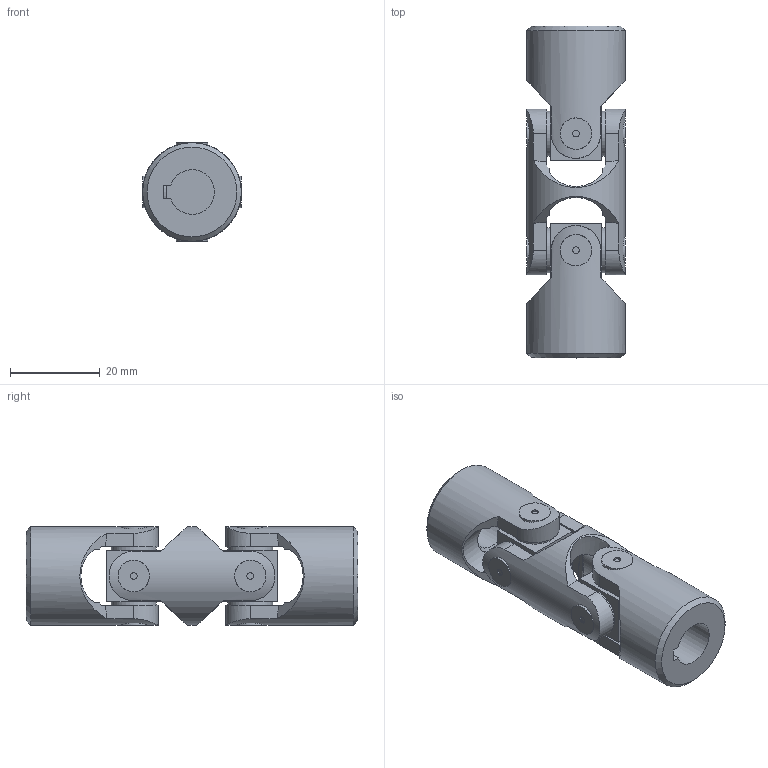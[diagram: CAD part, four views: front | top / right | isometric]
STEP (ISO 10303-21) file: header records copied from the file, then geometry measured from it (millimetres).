
FILE_DESCRIPTION(/* description */ (''),/* implementation_level */ '2;1');
FILE_NAME(/* name */ '\\SRV2016\Societa\Stefano\Disegni 3D\00Catalogo 3D\02Doppi GD-GBD\SG0D101C.stp',/* time_stamp */ '2021-11-22T17:03:33+01:00',/* author */ ('acquisti'),/* organization */ (''),/* preprocessor_version */ 'ST-DEVELOPER v15.6',/* originating_system */ 'Autodesk Inventor 2015',/* authorisation */ '');
FILE_SCHEMA (('AUTOMOTIVE_DESIGN { 1 0 10303 214 3 1 1 }'));
Length unit declared in the file: millimetre
Products named in the file (5): 03G MOD; 03G SFE; 03G MOC; 03G MOS; Ø22_03GD-00_SG0D1000
Assembly tree (5 placements, depth 2):
  Ø22_03GD-00_SG0D1000
    03G MOD
    03G SFE  x2
    03G MOC
    03G MOS
Bounding box: 22 x 74 x 22 mm (x, y, z)
Volume: 18416.6 mm3; surface area: 10082 mm2
Topology: 5 solids, 5 shells, 145 faces, 335 edges, 220 vertices
Faces by surface type: plane 73, cylinder 48, cone 20, torus 4
Full cylindrical faces by diameter (mm): 1.5 x8, 10 x9, 11.5 x2, 22 x3
Entity records: 4493 total; most frequent: CARTESIAN_POINT 1630, ORIENTED_EDGE 562, DIRECTION 551, EDGE_CURVE 281, AXIS2_PLACEMENT_3D 241, VERTEX_POINT 199, EDGE_LOOP 178, FACE_OUTER_BOUND 131
